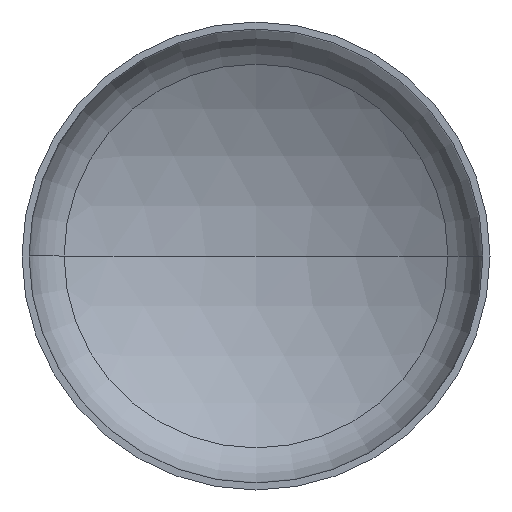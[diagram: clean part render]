
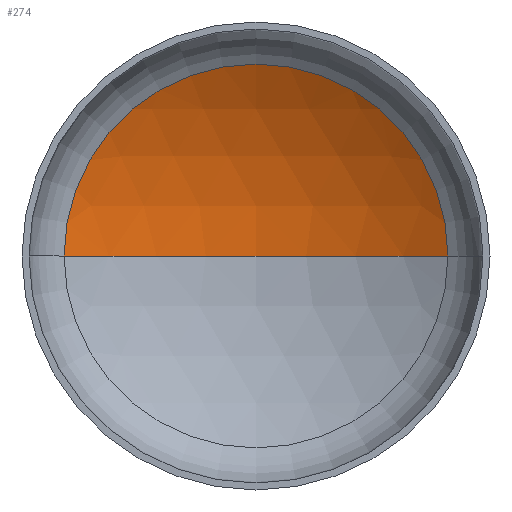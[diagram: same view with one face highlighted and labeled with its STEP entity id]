
A CAD part, front view. The second image highlights one B-rep face of the part: STEP entity #274.
In plain terms, the highlighted spherical face has radius 3200 mm.
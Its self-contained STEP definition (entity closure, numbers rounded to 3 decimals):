
#10 = AXIS2_PLACEMENT_3D ( 'NONE', #119, #27, #155 ) ;
#27 = DIRECTION ( 'NONE',  ( 0., 0., -1. ) ) ;
#28 = AXIS2_PLACEMENT_3D ( 'NONE', #171, #163, #159 ) ;
#30 = AXIS2_PLACEMENT_3D ( 'NONE', #281, #280, #277 ) ;
#34 = AXIS2_PLACEMENT_3D ( 'NONE', #272, #271, #126 ) ;
#67 = EDGE_CURVE ( 'NONE', #405, #327, #354, .T. ) ;
#68 = EDGE_CURVE ( 'NONE', #205, #405, #276, .T. ) ;
#69 = EDGE_CURVE ( 'NONE', #205, #327, #123, .T. ) ;
#93 = SPHERICAL_SURFACE ( 'NONE', #10, 3200. ) ;
#119 = CARTESIAN_POINT ( 'NONE',  ( 0., -2099.595, 0. ) ) ;
#123 = CIRCLE ( 'NONE', #28, 3200. ) ;
#126 = DIRECTION ( 'NONE',  ( 1., 0., 0. ) ) ;
#132 = ORIENTED_EDGE ( 'NONE', *, *, #69, .F. ) ;
#153 = ORIENTED_EDGE ( 'NONE', *, *, #67, .T. ) ;
#155 = DIRECTION ( 'NONE',  ( -1., 0., 0. ) ) ;
#159 = DIRECTION ( 'NONE',  ( 1., 0., 0. ) ) ;
#163 = DIRECTION ( 'NONE',  ( 0., 0., 1. ) ) ;
#164 = CARTESIAN_POINT ( 'NONE',  ( 0., 1100.405, 0. ) ) ;
#171 = CARTESIAN_POINT ( 'NONE',  ( 0., -2099.595, 0. ) ) ;
#202 = CARTESIAN_POINT ( 'NONE',  ( -1640.232, 648.066, 0. ) ) ;
#205 = VERTEX_POINT ( 'NONE', #164 ) ;
#238 = CARTESIAN_POINT ( 'NONE',  ( 1640.232, 648.066, 0. ) ) ;
#266 = ORIENTED_EDGE ( 'NONE', *, *, #68, .T. ) ;
#271 = DIRECTION ( 'NONE',  ( 0., -1., 0. ) ) ;
#272 = CARTESIAN_POINT ( 'NONE',  ( 0., 648.066, 0. ) ) ;
#274 = ADVANCED_FACE ( 'NONE', ( #326 ), #93, .F. ) ;
#276 = CIRCLE ( 'NONE', #30, 3200. ) ;
#277 = DIRECTION ( 'NONE',  ( -1., 0., 0. ) ) ;
#280 = DIRECTION ( 'NONE',  ( 0., 0., -1. ) ) ;
#281 = CARTESIAN_POINT ( 'NONE',  ( 0., -2099.595, 0. ) ) ;
#326 = FACE_OUTER_BOUND ( 'NONE', #388, .T. ) ;
#327 = VERTEX_POINT ( 'NONE', #202 ) ;
#354 = CIRCLE ( 'NONE', #34, 1640.232 ) ;
#388 = EDGE_LOOP ( 'NONE', ( #132, #266, #153 ) ) ;
#405 = VERTEX_POINT ( 'NONE', #238 ) ;
